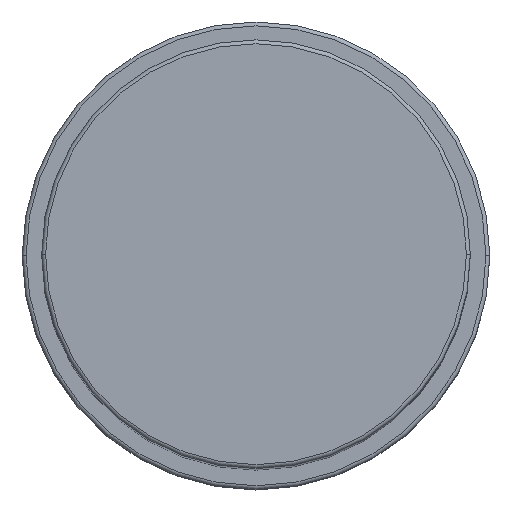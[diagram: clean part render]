
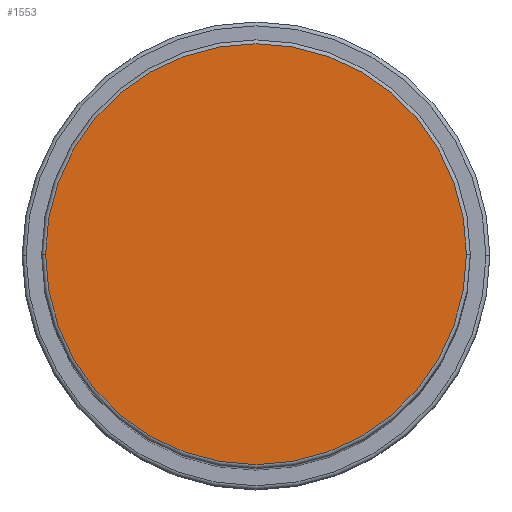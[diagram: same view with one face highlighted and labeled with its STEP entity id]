
A CAD part, top view. The second image highlights one B-rep face of the part: STEP entity #1553.
In plain terms, the highlighted planar face has unit normal (0, 0, 1).
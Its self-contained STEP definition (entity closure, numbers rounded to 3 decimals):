
#112 = DIRECTION ( 'NONE',  ( 0., 0., 1. ) ) ;
#142 = CIRCLE ( 'NONE', #1078, 27. ) ;
#213 = DIRECTION ( 'NONE',  ( 1., 0., 0. ) ) ;
#328 = EDGE_CURVE ( 'NONE', #373, #1829, #1327, .T. ) ;
#373 = VERTEX_POINT ( 'NONE', #1938 ) ;
#387 = CARTESIAN_POINT ( 'NONE',  ( 0., 0., 133. ) ) ;
#556 = CARTESIAN_POINT ( 'NONE',  ( 0., 0., 133. ) ) ;
#841 = PLANE ( 'NONE',  #1166 ) ;
#932 = ORIENTED_EDGE ( 'NONE', *, *, #1241, .T. ) ;
#986 = DIRECTION ( 'NONE',  ( 0., 0., 1. ) ) ;
#1078 = AXIS2_PLACEMENT_3D ( 'NONE', #387, #986, #213 ) ;
#1166 = AXIS2_PLACEMENT_3D ( 'NONE', #556, #1395, #1852 ) ;
#1235 = ORIENTED_EDGE ( 'NONE', *, *, #328, .T. ) ;
#1241 = EDGE_CURVE ( 'NONE', #1829, #373, #142, .T. ) ;
#1301 = EDGE_LOOP ( 'NONE', ( #932, #1235 ) ) ;
#1327 = CIRCLE ( 'NONE', #1542, 27. ) ;
#1347 = DIRECTION ( 'NONE',  ( 1., 0., 0. ) ) ;
#1355 = FACE_OUTER_BOUND ( 'NONE', #1301, .T. ) ;
#1369 = CARTESIAN_POINT ( 'NONE',  ( 0., 0., 133. ) ) ;
#1395 = DIRECTION ( 'NONE',  ( 0., 0., 1. ) ) ;
#1542 = AXIS2_PLACEMENT_3D ( 'NONE', #1369, #112, #1347 ) ;
#1553 = ADVANCED_FACE ( 'NONE', ( #1355 ), #841, .T. ) ;
#1829 = VERTEX_POINT ( 'NONE', #2012 ) ;
#1852 = DIRECTION ( 'NONE',  ( 1., 0., 0. ) ) ;
#1938 = CARTESIAN_POINT ( 'NONE',  ( -27., 0., 133. ) ) ;
#2012 = CARTESIAN_POINT ( 'NONE',  ( 27., 0., 133. ) ) ;
